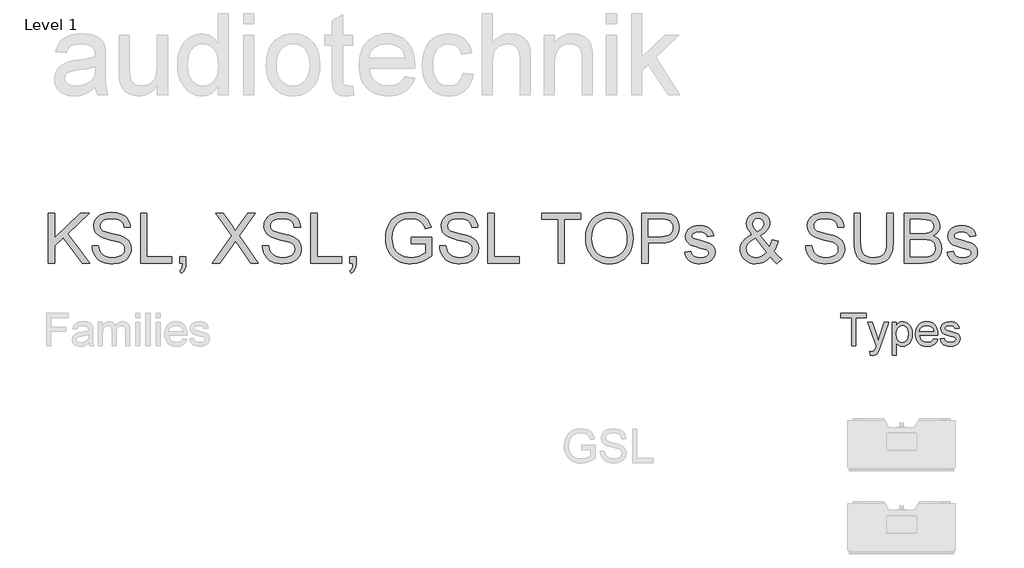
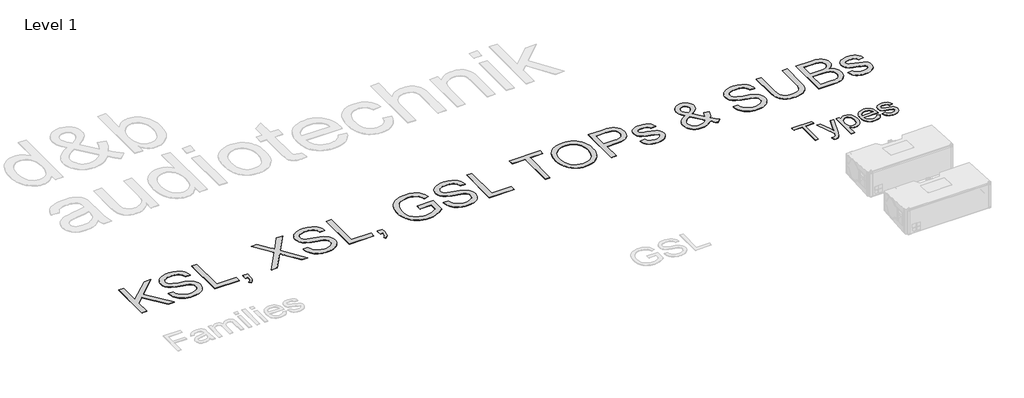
# One storey, part 47 of 52: 2 proxies.
"""IFC4 building model written with IfcOpenShell, lengths in millimetres."""

from ifc_helpers import new_model, si_unit, origin, origin_with_axes, place, context, project, spatial, polyline, outline, extrude, element, save

model = new_model("IFC4")

# Units and contexts
model_context = context("Model", 3, world=origin())
ifc_project = project(units=[si_unit("LENGTHUNIT", "METRE", prefix="MILLI")], contexts=[model_context])

# Site, building, storey
site = spatial("IfcSite", under=ifc_project)
building = spatial("IfcBuilding", under=site)
storey = spatial("IfcBuildingStorey", under=building, Name="Level 1", Elevation=0.0)

# Proxies
placement = place(None, origin())
element("IfcBuildingElementProxy", 1, Name="400mm Arial", ObjectType="400mm Arial", at=placement, inside=storey, context=model_context, shape_type="SweptSolid", body=[
    extrude(outline(polyline([(-11345.9583027, 17351.3054836), (-11345.9583027, 17694.0933624), (-11474.5037572, 17694.0933624), (-11474.5037572, 17743.0630593), (-11168.4431512, 17743.0630593), (-11168.4431512, 17694.0933624), (-11296.9886057, 17694.0933624), (-11296.9886057, 17351.3054836), (-11345.9583027, 17351.3054836)])), origin_with_axes(), (0.0, 0.0, 1.0), 5.0),
    extrude(outline(polyline([(-11119.4734542, 17241.1236654), (-11125.5946663, 17288.2761275), (-11100.7272421, 17283.9721502), (-11087.6479334, 17285.3231209), (-11077.4857648, 17289.3760328), (-11063.2348179, 17304.4399533), (-11049.8446663, 17340.4977184), (-11046.0189088, 17352.3575669), (-11150.0795148, 17639.0024533), (-11098.4317875, 17639.0024533), (-11043.2452345, 17479.2770745), (-11024.0208027, 17415.386923), (-11004.7963709, 17471.8168472), (-10948.0795148, 17639.0024533), (-10896.8143633, 17639.0024533), (-10996.9535679, 17344.4191199), (-11022.9687194, 17280.5289684), (-11036.2871379, 17260.1328983), (-11051.3749694, 17246.0015063), (-11068.9017213, 17237.7522165), (-11089.5369012, 17235.0024533), (-11119.4734542, 17241.1236654)])), origin_with_axes(), (0.0, 0.0, 1.0), 5.0),
    extrude(outline(polyline([(-10856.261333, 17241.1236654), (-10856.261333, 17639.0024533), (-10807.291636, 17639.0024533), (-10807.291636, 17590.9891957), (-10791.3190982, 17614.6730262), (-10773.4336815, 17631.590048), (-10752.5833027, 17641.740261), (-10727.7158785, 17645.1236654), (-10694.5991644, 17640.3892904), (-10665.6429618, 17626.1861654), (-10642.0667307, 17603.3750858), (-10625.0899315, 17572.8168472), (-10614.832119, 17536.7351711), (-10611.4128482, 17497.353779), (-10615.2744722, 17455.4736891), (-10626.8593444, 17418.0171313), (-10645.7968444, 17386.885029), (-10671.7163519, 17363.9783055), (-10701.9039703, 17349.88278), (-10733.6458027, 17345.1842715), (-10756.1579949, 17348.328566), (-10776.2551777, 17357.7614495), (-10793.4591313, 17372.000441), (-10807.291636, 17389.5630593), (-10807.291636, 17241.1236654), (-10856.261333, 17241.1236654)]), holes=[polyline([(-10807.291636, 17492.8585139), (-10801.9953529, 17448.9579457), (-10795.374999, 17431.9572355), (-10786.1065035, 17418.2562411), (-10762.6617828, 17400.1795366), (-10749.2447314, 17395.6603605), (-10734.697886, 17394.1539684), (-10719.9418195, 17395.7141602), (-10706.2796805, 17400.3947355), (-10682.2371853, 17419.1170366), (-10672.6757802, 17433.3141839), (-10665.8462052, 17450.9425574), (-10660.3825451, 17496.4929836), (-10665.7146947, 17540.1544419), (-10672.3798818, 17557.2866625), (-10681.7111436, 17571.2865442), (-10705.1199978, 17589.9371124), (-10718.3846166, 17594.5997544), (-10732.6893633, 17596.1539684), (-10746.9492769, 17594.5011216), (-10760.3663283, 17589.5425811), (-10784.6718444, 17569.7084192), (-10794.5680032, 17554.9882191), (-10801.6366881, 17537.2731682), (-10805.8778991, 17516.5632665), (-10807.291636, 17492.8585139)])]), origin_with_axes(), (0.0, 0.0, 1.0), 5.0),
    extrude(outline(polyline([(-10354.8958027, 17437.0024533), (-10306.8825451, 17430.8812411), (-10314.2441396, 17411.6508316), (-10324.1821427, 17394.7039211), (-10336.6965544, 17380.0405096), (-10351.7873747, 17367.6605972), (-10369.2991822, 17357.8272047), (-10389.0765555, 17350.8033529), (-10435.4279997, 17345.1842715), (-10465.8128837, 17347.6082475), (-10492.8860963, 17354.8801758), (-10516.6476375, 17367.0000563), (-10537.0975072, 17383.9678889), (-10553.5422871, 17405.3114317), (-10565.2885584, 17430.5584429), (-10572.3363212, 17459.7089223), (-10574.6855754, 17492.7628699), (-10572.3124102, 17526.937645), (-10565.1929144, 17557.0595082), (-10553.3270882, 17583.1284594), (-10536.7149315, 17605.1444987), (-10516.3188614, 17622.6353841), (-10493.1012951, 17635.1288737), (-10467.0622326, 17642.6249675), (-10438.2016739, 17645.1236654), (-10410.2706547, 17642.6309452), (-10385.0116881, 17635.1527847), (-10362.4247741, 17622.6891839), (-10342.5099125, 17605.2401427), (-10326.2534317, 17583.2719253), (-10314.6416597, 17557.2507961), (-10307.6745965, 17527.1767549), (-10305.3522421, 17493.0498018), (-10305.6391739, 17479.8509381), (-10525.7158785, 17479.8509381), (-10522.8794379, 17460.3096858), (-10517.2394343, 17443.1953983), (-10508.7958678, 17428.5080759), (-10497.5487383, 17416.2477184), (-10469.1305328, 17399.6774059), (-10434.4715603, 17394.1539684), (-10408.4085868, 17396.7124438), (-10386.4583027, 17404.3878699), (-10368.620708, 17417.6584665), (-10354.8958027, 17437.0024533)]), holes=[polyline([(-10525.7158785, 17528.8206351), (-10354.3219391, 17528.8206351), (-10360.9452819, 17554.6923207), (-10373.9289466, 17573.199423), (-10387.2832317, 17583.2420366), (-10402.4786625, 17590.4153321), (-10438.3929618, 17596.1539684), (-10471.4020764, 17591.5750148), (-10498.6964656, 17577.838154), (-10517.6698321, 17556.4258671), (-10525.7158785, 17528.8206351)])]), origin_with_axes(), (0.0, 0.0, 1.0), 5.0),
    extrude(outline(polyline([(-10274.7461815, 17437.0024533), (-10225.7764845, 17443.1236654), (-10218.0532364, 17422.1776427), (-10203.1088709, 17406.7789684), (-10180.847744, 17397.3102184), (-10151.1742118, 17394.1539684), (-10121.8593444, 17397.0471976), (-10101.2480754, 17405.7268851), (-10089.0534732, 17418.3040631), (-10084.9886057, 17432.8897639), (-10089.0773841, 17445.371298), (-10101.3437194, 17454.8878699), (-10151.7480754, 17468.8518851), (-10225.4895527, 17492.8106919), (-10244.1520764, 17504.8498728), (-10257.6737383, 17520.7865442), (-10265.8871616, 17539.6044893), (-10268.6249694, 17560.2874911), (-10266.4251588, 17579.2608576), (-10259.8257269, 17596.775654), (-10249.4244485, 17612.1384618), (-10235.8190982, 17624.6558624), (-10204.6869959, 17639.1459192), (-10162.5558406, 17645.1236654), (-10130.6824978, 17642.7206114), (-10102.9696663, 17635.5114495), (-10080.6846285, 17624.2015536), (-10065.0946663, 17609.496298), (-10054.7651209, 17590.3077326), (-10048.261333, 17565.5479078), (-10097.23103, 17559.4266957), (-10103.4120196, 17574.8373254), (-10115.6424883, 17586.4461086), (-10134.0419911, 17593.7270035), (-10158.730083, 17596.1539684), (-10186.8494012, 17593.8346029), (-10205.5956133, 17586.8765063), (-10216.1403576, 17576.8338927), (-10219.6552724, 17565.260976), (-10213.8209921, 17551.010029), (-10195.5529997, 17540.2022639), (-10153.3740224, 17529.7770745), (-10081.4976019, 17506.7268851), (-10062.51228, 17495.7039211), (-10048.1178671, 17480.6160896), (-10039.0436483, 17461.4155688), (-10036.0189088, 17438.0545366), (-10039.56969, 17413.9044419), (-10050.2220338, 17391.1890063), (-10067.5694533, 17371.6895982), (-10091.2054618, 17357.1875858), (-10119.7551777, 17348.1851), (-10151.8437194, 17345.1842715), (-10178.1996024, 17346.630886), (-10201.2199031, 17350.9707298), (-10220.9046214, 17358.2038027), (-10237.2537572, 17368.3301048), (-10250.6080423, 17381.3018141), (-10261.308208, 17397.0711086), (-10269.3542544, 17415.6379883), (-10274.7461815, 17437.0024533)])), origin_with_axes(), (0.0, 0.0, 1.0), 5.0),
])
element("IfcBuildingElementProxy", 2, Name="600mm Arial", ObjectType="600mm Arial", at=placement, inside=storey, context=model_context, shape_type="SweptSolid", body=[
    extrude(outline(polyline([(-21033.6449223, 18351.3054836), (-21033.6449223, 18954.0433445), (-20958.3026897, 18954.0433445), (-20958.3026897, 18659.0019843), (-20649.2818138, 18954.0433445), (-20543.9204104, 18954.0433445), (-20803.3507934, 18706.2380325), (-20534.5026313, 18351.3054836), (-20626.6202829, 18351.3054836), (-20856.7672591, 18655.3231644), (-20958.3026897, 18558.4966233), (-20958.3026897, 18351.3054836), (-21033.6449223, 18351.3054836)])), origin_with_axes(), (0.0, 0.0, 1.0), 5.0),
    extrude(outline(polyline([(-20506.2492941, 18558.4966233), (-20430.9070614, 18558.4966233), (-20422.2618346, 18516.6868345), (-20406.6268498, 18483.0808142), (-20382.2362735, 18456.4093696), (-20347.3242721, 18435.4033077), (-20304.6499607, 18421.7732797), (-20256.9724541, 18417.2299371), (-20214.9971185, 18420.6696338), (-20178.2457072, 18430.9887237), (-20148.4656597, 18447.3226843), (-20127.4044154, 18468.8069928), (-20114.8780335, 18493.4734806), (-20110.7025728, 18519.353979), (-20113.8295698, 18544.5722897), (-20123.2105607, 18566.369298), (-20142.266848, 18584.9657328), (-20174.4197344, 18600.5823235), (-20284.1221454, 18629.3506955), (-20356.1350459, 18648.3885888), (-20402.2122658, 18666.506777), (-20439.7178352, 18691.8538465), (-20466.2973094, 18722.5719931), (-20482.1346293, 18757.9990292), (-20487.4137359, 18797.4727673), (-20485.7812596, 18819.9089705), (-20480.8838305, 18841.6002126), (-20472.7214487, 18862.5464937), (-20461.2941142, 18882.7478138), (-20446.7305858, 18901.3810369), (-20429.159622, 18917.6230269), (-20408.5812229, 18931.4737841), (-20384.9953884, 18942.9333082), (-20331.9835929, 18958.3291697), (-20273.3064147, 18963.4611235), (-20209.7364059, 18958.0900464), (-20154.1126483, 18941.976815), (-20129.7772543, 18929.9746649), (-20108.4217045, 18915.4525232), (-20090.0459988, 18898.4103897), (-20074.6501373, 18878.8482647), (-20062.3536816, 18857.336365), (-20053.2761934, 18834.4449078), (-20047.4176726, 18810.1738932), (-20044.7781193, 18784.5233211), (-20120.1203519, 18784.5233211), (-20125.1603353, 18808.5644095), (-20133.9527149, 18829.4785009), (-20146.497491, 18847.2655954), (-20162.7946634, 18861.9256929), (-20183.1477347, 18873.385217), (-20207.8602078, 18881.5705914), (-20236.9320824, 18886.4818161), (-20270.3633588, 18888.1188909), (-20304.8614929, 18886.5002102), (-20334.3380377, 18881.6441678), (-20358.7929933, 18873.5507639), (-20378.2263597, 18862.2199985), (-20393.03361, 18848.5991676), (-20403.6102174, 18833.6355674), (-20409.9561818, 18817.329198), (-20412.0715033, 18799.6800593), (-20410.5723842, 18784.4957299), (-20406.0750268, 18770.7277463), (-20398.5794311, 18758.3761083), (-20388.0855972, 18747.440816), (-20371.5676956, 18737.0849378), (-20345.5584386, 18726.6186951), (-20265.065858, 18705.3551157), (-20181.9981035, 18685.1583942), (-20131.745423, 18667.5368466), (-20088.7952, 18640.2032144), (-20072.1899265, 18624.1359682), (-20058.8312115, 18606.4684354), (-20048.5627053, 18587.2925864), (-20041.2280581, 18566.7003917), (-20035.3603402, 18521.2669653), (-20037.0479989, 18497.699525), (-20042.1109748, 18474.8218635), (-20050.5492681, 18452.6339806), (-20062.3628787, 18431.1358765), (-20077.3448729, 18411.1598842), (-20095.2883172, 18393.5383366), (-20116.1932116, 18378.2712338), (-20140.0595561, 18365.3585758), (-20166.1929733, 18355.0900696), (-20193.8990861, 18347.7554223), (-20254.0293982, 18341.8877045), (-20292.5696357, 18343.4695971), (-20327.8449205, 18348.2152748), (-20359.8552526, 18356.1247377), (-20388.600632, 18367.1979858), (-20414.2558026, 18381.4534131), (-20436.9955085, 18398.9094137), (-20456.8197495, 18419.5659878), (-20473.7285257, 18443.4231352), (-20487.3493566, 18469.7083037), (-20497.3097616, 18497.6489413), (-20503.6097407, 18527.2450478), (-20506.2492941, 18558.4966233)])), origin_with_axes(), (0.0, 0.0, 1.0), 5.0),
    extrude(outline(polyline([(-19922.3469913, 18351.3054836), (-19922.3469913, 18954.0433445), (-19847.0047587, 18954.0433445), (-19847.0047587, 18426.6477162), (-19545.6358283, 18426.6477162), (-19545.6358283, 18351.3054836), (-19922.3469913, 18351.3054836)])), origin_with_axes(), (0.0, 0.0, 1.0), 5.0),
    extrude(outline(polyline([(-19451.4580375, 18351.3054836), (-19451.4580375, 18426.6477162), (-19376.1158049, 18426.6477162), (-19376.1158049, 18351.3054836), (-19379.5003192, 18308.2081078), (-19389.6538623, 18274.2709938), (-19407.1650453, 18248.2433426), (-19432.6224793, 18228.8743556), (-19451.4580375, 18257.1276928), (-19435.1240769, 18270.7761148), (-19423.7933115, 18289.6484612), (-19416.9139181, 18315.804871), (-19413.934074, 18351.3054836), (-19451.4580375, 18351.3054836)])), origin_with_axes(), (0.0, 0.0, 1.0), 5.0),
    extrude(outline(polyline([(-19055.9113163, 18351.3054836), (-18823.5570481, 18679.7505289), (-19018.2402, 18954.0433445), (-18927.888382, 18954.0433445), (-18818.2595474, 18799.6800593), (-18792.1031375, 18760.5742032), (-18781.3241951, 18739.4945649), (-18738.0612724, 18800.7101289), (-18629.6096603, 18954.0433445), (-18537.9334671, 18954.0433445), (-18732.6166189, 18678.8676121), (-18500.2623508, 18351.3054836), (-18590.6141688, 18351.3054836), (-18745.4189123, 18569.6802359), (-18777.6453751, 18615.0032977), (-18813.1091995, 18565.265652), (-18964.2351231, 18351.3054836), (-19055.9113163, 18351.3054836)])), origin_with_axes(), (0.0, 0.0, 1.0), 5.0),
    extrude(outline(polyline([(-18453.1734554, 18558.4966233), (-18377.8312228, 18558.4966233), (-18369.1859959, 18516.6868345), (-18353.5510111, 18483.0808142), (-18329.1604348, 18456.4093696), (-18294.2484335, 18435.4033077), (-18251.574122, 18421.7732797), (-18203.8966154, 18417.2299371), (-18161.9212798, 18420.6696338), (-18125.1698685, 18430.9887237), (-18095.389821, 18447.3226843), (-18074.3285767, 18468.8069928), (-18061.8021948, 18493.4734806), (-18057.6267342, 18519.353979), (-18060.7537311, 18544.5722897), (-18070.134722, 18566.369298), (-18089.1910093, 18584.9657328), (-18121.3438957, 18600.5823235), (-18231.0463067, 18629.3506955), (-18303.0592072, 18648.3885888), (-18349.1364271, 18666.506777), (-18386.6419965, 18691.8538465), (-18413.2214707, 18722.5719931), (-18429.0587906, 18757.9990292), (-18434.3378972, 18797.4727673), (-18432.7054209, 18819.9089705), (-18427.8079918, 18841.6002126), (-18419.64561, 18862.5464937), (-18408.2182756, 18882.7478138), (-18393.6547471, 18901.3810369), (-18376.0837833, 18917.6230269), (-18355.5053842, 18931.4737841), (-18331.9195498, 18942.9333082), (-18278.9077543, 18958.3291697), (-18220.230576, 18963.4611235), (-18156.6605673, 18958.0900464), (-18101.0368096, 18941.976815), (-18076.7014156, 18929.9746649), (-18055.3458658, 18915.4525232), (-18036.9701601, 18898.4103897), (-18021.5742986, 18878.8482647), (-18009.2778429, 18857.336365), (-18000.2003547, 18834.4449078), (-17994.3418339, 18810.1738932), (-17991.7022806, 18784.5233211), (-18067.0445132, 18784.5233211), (-18072.0844966, 18808.5644095), (-18080.8768763, 18829.4785009), (-18093.4216523, 18847.2655954), (-18109.7188247, 18861.9256929), (-18130.0718961, 18873.385217), (-18154.7843691, 18881.5705914), (-18183.8562438, 18886.4818161), (-18217.2875201, 18888.1188909), (-18251.7856542, 18886.5002102), (-18281.262199, 18881.6441678), (-18305.7171547, 18873.5507639), (-18325.1505211, 18862.2199985), (-18339.9577714, 18848.5991676), (-18350.5343787, 18833.6355674), (-18356.8803431, 18817.329198), (-18358.9956646, 18799.6800593), (-18357.4965455, 18784.4957299), (-18352.9991881, 18770.7277463), (-18345.5035924, 18758.3761083), (-18335.0097585, 18747.440816), (-18318.4918569, 18737.0849378), (-18292.4825999, 18726.6186951), (-18211.9900193, 18705.3551157), (-18128.9222648, 18685.1583942), (-18078.6695843, 18667.5368466), (-18035.7193614, 18640.2032144), (-18019.1140878, 18624.1359682), (-18005.7553728, 18606.4684354), (-17995.4868667, 18587.2925864), (-17988.1522194, 18566.7003917), (-17982.2845016, 18521.2669653), (-17983.9721602, 18497.699525), (-17989.0351362, 18474.8218635), (-17997.4734294, 18452.6339806), (-18009.28704, 18431.1358765), (-18024.2690343, 18411.1598842), (-18042.2124786, 18393.5383366), (-18063.1173729, 18378.2712338), (-18086.9837174, 18365.3585758), (-18113.1171346, 18355.0900696), (-18140.8232474, 18347.7554223), (-18200.9535595, 18341.8877045), (-18239.493797, 18343.4695971), (-18274.7690818, 18348.2152748), (-18306.7794139, 18356.1247377), (-18335.5247933, 18367.1979858), (-18361.179964, 18381.4534131), (-18383.9196698, 18398.9094137), (-18403.7439108, 18419.5659878), (-18420.652687, 18443.4231352), (-18434.2735179, 18469.7083037), (-18444.2339229, 18497.6489413), (-18450.5339021, 18527.2450478), (-18453.1734554, 18558.4966233)])), origin_with_axes(), (0.0, 0.0, 1.0), 5.0),
    extrude(outline(polyline([(-17869.2711526, 18351.3054836), (-17869.2711526, 18954.0433445), (-17793.92892, 18954.0433445), (-17793.92892, 18426.6477162), (-17492.5599896, 18426.6477162), (-17492.5599896, 18351.3054836), (-17869.2711526, 18351.3054836)])), origin_with_axes(), (0.0, 0.0, 1.0), 5.0),
    extrude(outline(polyline([(-17398.3821988, 18351.3054836), (-17398.3821988, 18426.6477162), (-17323.0399662, 18426.6477162), (-17323.0399662, 18351.3054836), (-17326.4244806, 18308.2081078), (-17336.5780236, 18274.2709938), (-17354.0892066, 18248.2433426), (-17379.5466407, 18228.8743556), (-17398.3821988, 18257.1276928), (-17382.0482382, 18270.7761148), (-17370.7174728, 18289.6484612), (-17363.8380795, 18315.804871), (-17360.8582353, 18351.3054836), (-17398.3821988, 18351.3054836)])), origin_with_axes(), (0.0, 0.0, 1.0), 5.0),
    extrude(outline(polyline([(-16654.3776518, 18586.7499605), (-16654.3776518, 18662.0921931), (-16409.5153958, 18662.0921931), (-16409.5153958, 18436.8012593), (-16469.0203085, 18395.4145348), (-16530.4014194, 18365.7264578), (-16593.5115757, 18347.8473928), (-16658.2036245, 18341.8877045), (-16701.4803427, 18344.2559448), (-16742.7245129, 18351.3606659), (-16781.9361351, 18363.2018676), (-16819.1152092, 18379.77955), (-16853.0615203, 18400.8453927), (-16882.5748534, 18426.1510755), (-16907.6552084, 18455.6965982), (-16928.3025854, 18489.481961), (-16944.4296123, 18526.4265103), (-16955.9489173, 18565.449593), (-16962.8605003, 18606.5512089), (-16965.1643613, 18649.7313581), (-16962.8696973, 18692.9161058), (-16955.9857055, 18734.6201284), (-16944.5123858, 18774.8434261), (-16928.4497382, 18813.5859987), (-16908.0828712, 18849.1463921), (-16883.6968935, 18879.8231519), (-16855.2918049, 18905.6162783), (-16822.8676056, 18926.5257712), (-16787.1278697, 18942.6849879), (-16748.7761717, 18954.2272855), (-16707.8125116, 18961.152664), (-16664.2368892, 18963.4611235), (-16602.1751966, 18958.1084405), (-16546.367498, 18942.0503914), (-16521.4480913, 18930.2965617), (-16499.3705731, 18916.4458046), (-16480.1349433, 18900.4981201), (-16463.7412019, 18882.4535082), (-16437.3824569, 18838.4364275), (-16418.1974109, 18782.7574875), (-16487.6535315, 18763.1861654), (-16503.1597576, 18802.8990268), (-16522.0137099, 18832.8630153), (-16546.9561092, 18855.4509698), (-16580.7276763, 18873.0357291), (-16620.9923607, 18884.3481005), (-16665.4141116, 18888.1188909), (-16717.4142316, 18884.0537949), (-16761.8727708, 18871.8585067), (-16798.6241821, 18853.0597368), (-16827.5029187, 18829.1841953), (-16849.6678089, 18801.464287), (-16866.277681, 18771.1324165), (-16883.9360168, 18714.25786), (-16889.8221287, 18652.8215668), (-16888.0516966, 18615.2010343), (-16882.7404003, 18580.7718781), (-16873.8882398, 18549.5340981), (-16861.495215, 18521.4876945), (-16845.7222745, 18496.7384333), (-16826.7303665, 18475.3920805), (-16804.519491, 18457.4486362), (-16779.0896481, 18442.9081004), (-16751.6318557, 18431.6739039), (-16723.3371318, 18423.6494779), (-16694.2054763, 18418.8348223), (-16664.2368892, 18417.2299371), (-16612.0528282, 18422.0675853), (-16561.1563542, 18436.5805301), (-16516.9553325, 18456.5749165), (-16484.8576284, 18477.8568899), (-16484.8576284, 18586.7499605), (-16654.3776518, 18586.7499605)])), origin_with_axes(), (0.0, 0.0, 1.0), 5.0),
    extrude(outline(polyline([(-16315.337605, 18558.4966233), (-16239.9953724, 18558.4966233), (-16231.3501455, 18516.6868345), (-16215.7151607, 18483.0808142), (-16191.3245844, 18456.4093696), (-16156.4125831, 18435.4033077), (-16113.7382716, 18421.7732797), (-16066.0607651, 18417.2299371), (-16024.0854294, 18420.6696338), (-15987.3340181, 18430.9887237), (-15957.5539706, 18447.3226843), (-15936.4927264, 18468.8069928), (-15923.9663444, 18493.4734806), (-15919.7908838, 18519.353979), (-15922.9178808, 18544.5722897), (-15932.2988716, 18566.369298), (-15951.355159, 18584.9657328), (-15983.5080454, 18600.5823235), (-16093.2104563, 18629.3506955), (-16165.2233569, 18648.3885888), (-16211.3005768, 18666.506777), (-16248.8061462, 18691.8538465), (-16275.3856203, 18722.5719931), (-16291.2229402, 18757.9990292), (-16296.5020469, 18797.4727673), (-16294.8695705, 18819.9089705), (-16289.9721414, 18841.6002126), (-16281.8097597, 18862.5464937), (-16270.3824252, 18882.7478138), (-16255.8188967, 18901.3810369), (-16238.2479329, 18917.6230269), (-16217.6695338, 18931.4737841), (-16194.0836994, 18942.9333082), (-16141.0719039, 18958.3291697), (-16082.3947257, 18963.4611235), (-16018.8247169, 18958.0900464), (-15963.2009592, 18941.976815), (-15938.8655652, 18929.9746649), (-15917.5100154, 18915.4525232), (-15899.1343098, 18898.4103897), (-15883.7384483, 18878.8482647), (-15871.4419926, 18857.336365), (-15862.3645043, 18834.4449078), (-15856.5059836, 18810.1738932), (-15853.8664303, 18784.5233211), (-15929.2086629, 18784.5233211), (-15934.2486462, 18808.5644095), (-15943.0410259, 18829.4785009), (-15955.5858019, 18847.2655954), (-15971.8829743, 18861.9256929), (-15992.2360457, 18873.385217), (-16016.9485187, 18881.5705914), (-16046.0203934, 18886.4818161), (-16079.4516697, 18888.1188909), (-16113.9498038, 18886.5002102), (-16143.4263487, 18881.6441678), (-16167.8813043, 18873.5507639), (-16187.3146707, 18862.2199985), (-16202.121921, 18848.5991676), (-16212.6985284, 18833.6355674), (-16219.0444928, 18817.329198), (-16221.1598142, 18799.6800593), (-16219.6606951, 18784.4957299), (-16215.1633377, 18770.7277463), (-16207.6677421, 18758.3761083), (-16197.1739082, 18747.440816), (-16180.6560066, 18737.0849378), (-16154.6467495, 18726.6186951), (-16074.154169, 18705.3551157), (-15991.0864145, 18685.1583942), (-15940.8337339, 18667.5368466), (-15897.883511, 18640.2032144), (-15881.2782374, 18624.1359682), (-15867.9195225, 18606.4684354), (-15857.6510163, 18587.2925864), (-15850.316369, 18566.7003917), (-15844.4486512, 18521.2669653), (-15846.1363098, 18497.699525), (-15851.1992858, 18474.8218635), (-15859.6375791, 18452.6339806), (-15871.4511896, 18431.1358765), (-15886.4331839, 18411.1598842), (-15904.3766282, 18393.5383366), (-15925.2815226, 18378.2712338), (-15949.147867, 18365.3585758), (-15975.2812842, 18355.0900696), (-16002.987397, 18347.7554223), (-16063.1177091, 18341.8877045), (-16101.6579466, 18343.4695971), (-16136.9332314, 18348.2152748), (-16168.9435636, 18356.1247377), (-16197.6889429, 18367.1979858), (-16223.3441136, 18381.4534131), (-16246.0838194, 18398.9094137), (-16265.9080604, 18419.5659878), (-16282.8168366, 18443.4231352), (-16296.4376675, 18469.7083037), (-16306.3980725, 18497.6489413), (-16312.6980517, 18527.2450478), (-16315.337605, 18558.4966233)])), origin_with_axes(), (0.0, 0.0, 1.0), 5.0),
    extrude(outline(polyline([(-15731.4353023, 18351.3054836), (-15731.4353023, 18954.0433445), (-15656.0930696, 18954.0433445), (-15656.0930696, 18426.6477162), (-15354.7241392, 18426.6477162), (-15354.7241392, 18351.3054836), (-15731.4353023, 18351.3054836)])), origin_with_axes(), (0.0, 0.0, 1.0), 5.0),
    extrude(outline(polyline([(-14883.8351854, 18351.3054836), (-14883.8351854, 18878.7011119), (-15081.608546, 18878.7011119), (-15081.608546, 18954.0433445), (-14610.7195922, 18954.0433445), (-14610.7195922, 18878.7011119), (-14808.4929528, 18878.7011119), (-14808.4929528, 18351.3054836), (-14883.8351854, 18351.3054836)])), origin_with_axes(), (0.0, 0.0, 1.0), 5.0),
    extrude(outline(polyline([(-14554.2129177, 18644.7281629), (-14549.1913285, 18715.4258853), (-14534.1265608, 18778.0118098), (-14509.0186146, 18832.4859362), (-14492.6984496, 18856.6810752), (-14473.8674899, 18878.8482647), (-14430.7793113, 18915.8663904), (-14381.860203, 18942.3079088), (-14327.110165, 18958.1728199), (-14266.5291975, 18963.4611235), (-14225.9794045, 18960.9779201), (-14187.4713567, 18953.5283097), (-14151.0050539, 18941.1122923), (-14116.5804962, 18923.7298681), (-14085.1633738, 18901.9052687), (-14057.719377, 18876.1627261), (-14034.2485057, 18846.5022402), (-14014.75076, 18812.9238111), (-13999.4284749, 18776.1907939), (-13988.4839855, 18737.0665437), (-13981.9172919, 18695.5510606), (-13979.728394, 18651.6443444), (-13982.032255, 18607.1582142), (-13988.943838, 18565.081711), (-14000.463143, 18525.4148348), (-14016.5901699, 18488.1575858), (-14036.9432413, 18454.2940481), (-14061.1406796, 18424.8083062), (-14089.1824846, 18399.70036), (-14121.0686566, 18378.9702096), (-14155.543798, 18362.7466136), (-14191.3525118, 18351.1583308), (-14228.4947977, 18344.2053611), (-14266.9706559, 18341.8877045), (-14308.2286216, 18344.4490829), (-14347.2425072, 18352.1332181), (-14384.0123126, 18364.94011), (-14418.5380379, 18382.8697588), (-14449.9183721, 18405.227787), (-14477.2520043, 18431.3198175), (-14500.5389346, 18461.1458503), (-14519.7791629, 18494.7058853), (-14534.8439306, 18530.6525547), (-14545.604479, 18567.6384908), (-14552.060808, 18605.6636936), (-14554.2129177, 18644.7281629)]), holes=[polyline([(-14478.8706851, 18643.9923989), (-14475.1044932, 18594.043221), (-14463.8059174, 18549.7042436), (-14444.9749578, 18510.9754665), (-14418.6116143, 18477.8568899), (-14386.564494, 18451.3325981), (-14350.6822039, 18432.3866753), (-14310.964744, 18421.0191217), (-14267.4121143, 18417.2299371), (-14223.1145235, 18421.0559099), (-14182.9280141, 18432.5338281), (-14146.8525859, 18451.6636919), (-14114.8882391, 18478.4455011), (-14088.7180336, 18512.2630535), (-14070.0250297, 18552.5001467), (-14058.8092274, 18599.1567808), (-14055.0706266, 18652.2329556), (-14056.6709133, 18686.7126956), (-14061.4717734, 18718.9299614), (-14069.4732068, 18748.8847528), (-14080.6752135, 18776.57707), (-14094.9536334, 18801.6436294), (-14112.1843064, 18823.7211477), (-14132.3672324, 18842.8096247), (-14155.5024113, 18858.9090605), (-14180.8724734, 18871.6883613), (-14207.7600487, 18880.8164333), (-14236.1651373, 18886.2932765), (-14266.0877391, 18888.1188909), (-14308.1274541, 18884.6010194), (-14347.1321426, 18874.0474046), (-14383.1018047, 18856.4580467), (-14416.0364403, 18831.8329457), (-14443.5264224, 18798.985682), (-14463.1621239, 18756.7298364), (-14474.9435448, 18705.0654087), (-14478.8706851, 18643.9923989)])]), origin_with_axes(), (0.0, 0.0, 1.0), 5.0),
    extrude(outline(polyline([(-13876.1328242, 18351.3054836), (-13876.1328242, 18954.0433445), (-13652.7548767, 18954.0433445), (-13600.7363626, 18952.6086047), (-13562.6973643, 18948.3043853), (-13522.5430445, 18937.5806252), (-13489.4888473, 18920.1246245), (-13462.8725849, 18895.145437), (-13442.0320699, 18861.8521165), (-13428.5675889, 18822.5807135), (-13424.0794285, 18779.6672788), (-13427.1098564, 18742.6675471), (-13436.2011403, 18708.6292655), (-13451.3532799, 18677.5524339), (-13472.5662755, 18649.4370525), (-13501.6887339, 18626.1317281), (-13540.5692623, 18609.4850678), (-13589.2078606, 18599.4970716), (-13647.6045288, 18596.1677396), (-13800.7905916, 18596.1677396), (-13800.7905916, 18351.3054836), (-13876.1328242, 18351.3054836)]), holes=[polyline([(-13800.7905916, 18671.5099722), (-13643.1899448, 18671.5099722), (-13606.9535683, 18673.2390176), (-13576.3825745, 18678.4261537), (-13551.4769634, 18687.0713806), (-13532.2367351, 18699.1746982), (-13517.8801402, 18714.4142099), (-13507.6254296, 18732.4680188), (-13501.4726032, 18753.336125), (-13499.4216611, 18777.0185284), (-13504.2593094, 18810.8636719), (-13518.7722541, 18839.4113148), (-13541.1578735, 18860.8956233), (-13569.6135458, 18873.5507639), (-13598.6762234, 18877.4135249), (-13644.9557784, 18878.7011119), (-13800.7905916, 18878.7011119), (-13800.7905916, 18671.5099722)])]), origin_with_axes(), (0.0, 0.0, 1.0), 5.0),
    extrude(outline(polyline([(-13358.154975, 18483.1543906), (-13282.8127424, 18492.5721697), (-13278.2602027, 18475.3920805), (-13270.9301539, 18460.3457069), (-13260.8225961, 18447.4330489), (-13247.9375292, 18436.6541065), (-13232.2381651, 18428.1560324), (-13213.6877155, 18422.0859794), (-13168.0335599, 18417.2299371), (-13122.9312273, 18421.6813092), (-13105.4016502, 18427.2455244), (-13091.2197993, 18435.0354257), (-13072.4578175, 18454.3860186), (-13067.7673221, 18465.2201434), (-13066.2038236, 18476.8268203), (-13067.7765191, 18486.9987575), (-13072.4946057, 18496.0302605), (-13091.3669521, 18510.6719639), (-13119.5835011, 18520.2368958), (-13168.9164767, 18532.1562724), (-13237.6736216, 18552.0402942), (-13282.371284, 18569.0180483), (-13311.0844737, 18587.5409068), (-13331.8882005, 18612.0602418), (-13344.5249471, 18641.0125548), (-13348.7371959, 18672.8343474), (-13345.3526815, 18702.0257837), (-13335.1991385, 18728.9731398), (-13319.1962717, 18752.609558), (-13298.2637862, 18771.8681805), (-13277.4600593, 18783.9898922), (-13250.3655504, 18794.1618294), (-13219.0403985, 18801.0596168), (-13185.5447428, 18803.3588792), (-13136.5060729, 18799.6616652), (-13093.8685496, 18788.570023), (-13059.5819477, 18771.1692047), (-13035.5960416, 18748.544462), (-13019.7035394, 18719.0219319), (-13009.6971491, 18680.9277513), (-13085.0393818, 18671.5099722), (-13094.5491313, 18695.2199668), (-13113.3662954, 18713.0806376), (-13141.6748149, 18724.2826444), (-13179.6586309, 18728.0166466), (-13222.9215535, 18724.4481913), (-13251.763502, 18713.7428252), (-13267.987098, 18698.2917814), (-13273.3949633, 18680.4862929), (-13271.1508831, 18668.89801), (-13264.4186426, 18658.5605259), (-13252.9039362, 18649.3266879), (-13236.3124582, 18641.9322598), (-13171.4180742, 18625.8926048), (-13060.8327465, 18590.4287804), (-13031.6229161, 18573.4694205), (-13009.4764199, 18550.2560666), (-12995.5152982, 18520.7151424), (-12990.861591, 18484.7730714), (-12996.3246386, 18447.6169899), (-13012.7137815, 18412.6682004), (-13039.4036203, 18382.6674237), (-13075.7687555, 18360.3553807), (-13119.6938657, 18346.5046235), (-13169.0636295, 18341.8877045), (-13209.6134224, 18344.1133906), (-13245.0312615, 18350.7904488), (-13275.3171467, 18361.9188791), (-13300.4710781, 18377.4986816), (-13321.0172876, 18397.4562799), (-13337.4800068, 18421.7180974), (-13349.859236, 18450.2841344), (-13358.154975, 18483.1543906)])), origin_with_axes(), (0.0, 0.0, 1.0), 5.0),
    extrude(outline(polyline([(-12324.9951797, 18425.7647994), (-12363.2916954, 18389.0685704), (-12404.8991491, 18362.8569782), (-12449.8911171, 18347.1300229), (-12498.3411758, 18341.8877045), (-12542.3030743, 18345.7688595), (-12581.4825068, 18357.4123247), (-12615.8794733, 18376.8180999), (-12645.4939739, 18403.9861853), (-12664.7433993, 18430.0414276), (-12678.4929889, 18457.586592), (-12686.7427426, 18486.6216784), (-12689.4926605, 18517.146687), (-12687.28077, 18544.2136048), (-12680.6450986, 18569.9377533), (-12669.5856461, 18594.3191325), (-12654.1024126, 18617.3577425), (-12634.2229893, 18639.0443861), (-12609.9749673, 18659.3698663), (-12581.3583466, 18678.3341832), (-12548.3731272, 18695.9373367), (-12581.2433835, 18738.4644953), (-12600.9802525, 18772.1624861), (-12610.8578841, 18800.9308581), (-12614.1504279, 18828.6691605), (-12611.5568599, 18855.0003143), (-12603.7761557, 18879.5472404), (-12590.8083153, 18902.3099389), (-12572.6533389, 18923.2884097), (-12550.5712221, 18940.863972), (-12525.8219609, 18953.4179451), (-12498.4055552, 18960.9503289), (-12468.322005, 18963.4611235), (-12439.5996183, 18961.0606935), (-12413.6179524, 18953.8594035), (-12390.3770073, 18941.8572534), (-12369.8767831, 18925.0542433), (-12353.1381524, 18904.8851129), (-12341.1819875, 18882.784602), (-12334.0082886, 18858.7527107), (-12331.6170556, 18832.7894389), (-12333.3874877, 18811.4062979), (-12338.698784, 18790.8141032), (-12347.5509446, 18771.0128548), (-12359.9439693, 18752.0025527), (-12395.3526113, 18716.3547874), (-12444.9247102, 18683.8708072), (-12335.8844868, 18548.0487746), (-12317.306446, 18586.8603251), (-12303.3637184, 18631.4844111), (-12228.0214858, 18615.1504505), (-12251.1980515, 18545.363236), (-12265.3799024, 18516.2913614), (-12281.2907987, 18491.1006417), (-12238.4693345, 18441.1422668), (-12190.3503695, 18399.8659069), (-12246.8570439, 18341.8877045), (-12285.3007124, 18377.0572232), (-12324.9951797, 18425.7647994)]), holes=[polyline([(-12375.4685895, 18480.0641819), (-12509.9662469, 18647.9655245), (-12561.3409675, 18615.1872387), (-12592.7396958, 18584.8369741), (-12608.7977449, 18555.8478729), (-12614.1504279, 18527.1530773), (-12612.320215, 18509.5499238), (-12606.8295762, 18491.6156765), (-12584.8670211, 18454.7539006), (-12568.6986074, 18438.3371666), (-12549.4767732, 18426.610928), (-12527.2015184, 18419.5751848), (-12501.872843, 18417.2299371), (-12467.7885762, 18421.6077329), (-12432.6374515, 18434.7411201), (-12400.5029592, 18454.827477), (-12375.4685895, 18480.0641819)]), polyline([(-12483.0372849, 18731.401161), (-12443.6371232, 18756.3987426), (-12421.0859569, 18778.1221744), (-12410.4909554, 18799.256995), (-12406.9592882, 18822.488743), (-12411.6129955, 18848.8106997), (-12425.5741172, 18869.7983676), (-12446.5249968, 18883.5387601), (-12472.1479778, 18888.1188909), (-12498.3227818, 18883.5755483), (-12519.751908, 18869.9455204), (-12534.0441235, 18849.7671929), (-12538.8081953, 18825.5789518), (-12532.3334722, 18797.9878021), (-12512.7621501, 18767.3064437), (-12483.0372849, 18731.401161)])]), origin_with_axes(), (0.0, 0.0, 1.0), 5.0),
    extrude(outline(polyline([(-11898.3992181, 18558.4966233), (-11823.0569855, 18558.4966233), (-11814.4117586, 18516.6868345), (-11798.7767738, 18483.0808142), (-11774.3861975, 18456.4093696), (-11739.4741962, 18435.4033077), (-11696.7998848, 18421.7732797), (-11649.1223782, 18417.2299371), (-11607.1470425, 18420.6696338), (-11570.3956312, 18430.9887237), (-11540.6155837, 18447.3226843), (-11519.5543395, 18468.8069928), (-11507.0279575, 18493.4734806), (-11502.8524969, 18519.353979), (-11505.9794939, 18544.5722897), (-11515.3604847, 18566.369298), (-11534.4167721, 18584.9657328), (-11566.5696585, 18600.5823235), (-11676.2720694, 18629.3506955), (-11748.28497, 18648.3885888), (-11794.3621899, 18666.506777), (-11831.8677593, 18691.8538465), (-11858.4472334, 18722.5719931), (-11874.2845533, 18757.9990292), (-11879.56366, 18797.4727673), (-11877.9311836, 18819.9089705), (-11873.0337545, 18841.6002126), (-11864.8713728, 18862.5464937), (-11853.4440383, 18882.7478138), (-11838.8805098, 18901.3810369), (-11821.309546, 18917.6230269), (-11800.7311469, 18931.4737841), (-11777.1453125, 18942.9333082), (-11724.133517, 18958.3291697), (-11665.4563388, 18963.4611235), (-11601.88633, 18958.0900464), (-11546.2625723, 18941.976815), (-11521.9271784, 18929.9746649), (-11500.5716285, 18915.4525232), (-11482.1959229, 18898.4103897), (-11466.8000614, 18878.8482647), (-11454.5036057, 18857.336365), (-11445.4261175, 18834.4449078), (-11439.5675967, 18810.1738932), (-11436.9280434, 18784.5233211), (-11512.270276, 18784.5233211), (-11517.3102593, 18808.5644095), (-11526.102639, 18829.4785009), (-11538.647415, 18847.2655954), (-11554.9445874, 18861.9256929), (-11575.2976588, 18873.385217), (-11600.0101318, 18881.5705914), (-11629.0820065, 18886.4818161), (-11662.5132828, 18888.1188909), (-11697.0114169, 18886.5002102), (-11726.4879618, 18881.6441678), (-11750.9429174, 18873.5507639), (-11770.3762838, 18862.2199985), (-11785.1835341, 18848.5991676), (-11795.7601415, 18833.6355674), (-11802.1061059, 18817.329198), (-11804.2214274, 18799.6800593), (-11802.7223082, 18784.4957299), (-11798.2249508, 18770.7277463), (-11790.7293552, 18758.3761083), (-11780.2355213, 18747.440816), (-11763.7176197, 18737.0849378), (-11737.7083626, 18726.6186951), (-11657.2157821, 18705.3551157), (-11574.1480276, 18685.1583942), (-11523.895347, 18667.5368466), (-11480.9451241, 18640.2032144), (-11464.3398505, 18624.1359682), (-11450.9811356, 18606.4684354), (-11440.7126294, 18587.2925864), (-11433.3779821, 18566.7003917), (-11427.5102643, 18521.2669653), (-11429.1979229, 18497.699525), (-11434.2608989, 18474.8218635), (-11442.6991922, 18452.6339806), (-11454.5128027, 18431.1358765), (-11469.494797, 18411.1598842), (-11487.4382413, 18393.5383366), (-11508.3431357, 18378.2712338), (-11532.2094801, 18365.3585758), (-11558.3428973, 18355.0900696), (-11586.0490101, 18347.7554223), (-11646.1793222, 18341.8877045), (-11684.7195597, 18343.4695971), (-11719.9948446, 18348.2152748), (-11752.0051767, 18356.1247377), (-11780.7505561, 18367.1979858), (-11806.4057267, 18381.4534131), (-11829.1454325, 18398.9094137), (-11848.9696735, 18419.5659878), (-11865.8784497, 18443.4231352), (-11879.4992806, 18469.7083037), (-11889.4596856, 18497.6489413), (-11895.7596648, 18527.2450478), (-11898.3992181, 18558.4966233)])), origin_with_axes(), (0.0, 0.0, 1.0), 5.0),
    extrude(outline(polyline([(-10918.9501942, 18954.0433445), (-10843.6079615, 18954.0433445), (-10843.6079615, 18606.3212826), (-10848.7215213, 18524.890603), (-10855.1134709, 18491.1972108), (-10864.0622005, 18462.1851169), (-10876.3402621, 18436.755274), (-10892.7202079, 18413.8086346), (-10913.202038, 18393.3451986), (-10937.7857523, 18375.3649661), (-10966.498942, 18360.7186641), (-10999.3691983, 18350.2570199), (-11036.3965211, 18343.9800333), (-11077.5809105, 18341.8877045), (-11117.7490258, 18343.7087204), (-11154.0819714, 18349.171768), (-11186.5797471, 18358.2768474), (-11215.2423531, 18371.0239585), (-11240.0743877, 18387.2245619), (-11261.0804497, 18406.6901179), (-11278.2605388, 18429.4206267), (-11291.6146553, 18455.4160882), (-11301.6256441, 18485.5686162), (-11308.7763503, 18520.7703247), (-11313.0667741, 18561.0212134), (-11314.4969154, 18606.3212826), (-11314.4969154, 18954.0433445), (-11239.1546828, 18954.0433445), (-11239.1546828, 18608.970033), (-11235.4390746, 18541.2613518), (-11224.2922502, 18494.1172741), (-11215.5274616, 18476.7394484), (-11204.0955286, 18461.467747), (-11189.9964512, 18448.3021701), (-11173.2302292, 18437.2427176), (-11132.983939, 18422.2331322), (-11084.6442448, 18417.2299371), (-11043.1195646, 18419.7039435), (-11008.0144252, 18427.1259628), (-10979.3288266, 18439.4959949), (-10957.0627689, 18456.8140398), (-10940.3885174, 18481.1678279), (-10928.4783378, 18514.6450894), (-10921.3322301, 18557.2458245), (-10918.9501942, 18608.970033), (-10918.9501942, 18954.0433445)])), origin_with_axes(), (0.0, 0.0, 1.0), 5.0),
    extrude(outline(polyline([(-10711.7590545, 18351.3054836), (-10711.7590545, 18954.0433445), (-10481.7592311, 18954.0433445), (-10418.501922, 18949.6103664), (-10369.1137642, 18936.3114323), (-10349.0366043, 18926.2544583), (-10331.2587069, 18913.8154483), (-10315.7800719, 18898.9944024), (-10302.6006994, 18881.7913206), (-10284.5560876, 18844.1202043), (-10278.541217, 18804.6832544), (-10283.5995944, 18768.3916956), (-10298.7747267, 18734.2706406), (-10324.1769785, 18704.4170166), (-10359.9167143, 18680.9277513), (-10337.1770085, 18671.2340607), (-10317.2240087, 18658.6341023), (-10300.0577151, 18643.1278762), (-10285.6781277, 18624.7153824), (-10274.3151725, 18603.9576408), (-10266.198776, 18581.4156716), (-10261.3289381, 18557.0894746), (-10259.7056588, 18530.97905), (-10264.1386368, 18488.9485321), (-10277.437571, 18449.9714347), (-10297.2848046, 18416.8252669), (-10321.3626812, 18392.2875378), (-10350.8484231, 18374.5188375), (-10386.9192527, 18361.6797558), (-10430.7523925, 18353.8990516), (-10483.5250647, 18351.3054836), (-10711.7590545, 18351.3054836)]), holes=[polyline([(-10636.4168219, 18426.6477162), (-10481.9063839, 18426.6477162), (-10425.9883206, 18429.5907721), (-10400.0342459, 18436.1206776), (-10378.678696, 18445.9983091), (-10361.3146659, 18460.1433718), (-10347.3351501, 18479.4755707), (-10338.1197061, 18503.130383), (-10335.0478914, 18530.243286), (-10338.653135, 18561.7339848), (-10349.4688656, 18588.8100997), (-10368.3596061, 18609.9817085), (-10396.189879, 18623.7588892), (-10435.6084348, 18631.3188642), (-10489.2640238, 18633.8388559), (-10636.4168219, 18633.8388559), (-10636.4168219, 18426.6477162)]), polyline([(-10636.4168219, 18709.1810885), (-10498.8289557, 18709.1810885), (-10450.7099907, 18710.7997693), (-10418.4835279, 18715.6558116), (-10390.3589494, 18726.8210301), (-10370.1438338, 18743.5412668), (-10357.9485456, 18765.5590042), (-10353.8834496, 18792.616725), (-10357.6726341, 18818.8834994), (-10369.0401878, 18841.7657595), (-10387.4710757, 18859.6264304), (-10412.4502632, 18870.8284372), (-10450.7835671, 18876.7329432), (-10509.2768043, 18878.7011119), (-10636.4168219, 18878.7011119), (-10636.4168219, 18709.1810885)])]), origin_with_axes(), (0.0, 0.0, 1.0), 5.0),
    extrude(outline(polyline([(-10193.7812053, 18483.1543906), (-10118.4389727, 18492.5721697), (-10113.886433, 18475.3920805), (-10106.5563842, 18460.3457069), (-10096.4488264, 18447.4330489), (-10083.5637595, 18436.6541065), (-10067.8643954, 18428.1560324), (-10049.3139458, 18422.0859794), (-10003.6597902, 18417.2299371), (-9958.5574575, 18421.6813092), (-9941.0278805, 18427.2455244), (-9926.8460296, 18435.0354257), (-9908.0840478, 18454.3860186), (-9903.3935524, 18465.2201434), (-9901.8300539, 18476.8268203), (-9903.4027494, 18486.9987575), (-9908.120836, 18496.0302605), (-9926.9931824, 18510.6719639), (-9955.2097314, 18520.2368958), (-10004.5427069, 18532.1562724), (-10073.2998518, 18552.0402942), (-10117.9975143, 18569.0180483), (-10146.710704, 18587.5409068), (-10167.5144308, 18612.0602418), (-10180.1511773, 18641.0125548), (-10184.3634262, 18672.8343474), (-10180.9789118, 18702.0257837), (-10170.8253688, 18728.9731398), (-10154.822502, 18752.609558), (-10133.8900164, 18771.8681805), (-10113.0862896, 18783.9898922), (-10085.9917807, 18794.1618294), (-10054.6666288, 18801.0596168), (-10021.1709731, 18803.3588792), (-9972.1323032, 18799.6616652), (-9929.4947799, 18788.570023), (-9895.208178, 18771.1692047), (-9871.2222719, 18748.544462), (-9855.3297697, 18719.0219319), (-9845.3233794, 18680.9277513), (-9920.665612, 18671.5099722), (-9930.1753616, 18695.2199668), (-9948.9925257, 18713.0806376), (-9977.3010452, 18724.2826444), (-10015.2848612, 18728.0166466), (-10058.5477838, 18724.4481913), (-10087.3897323, 18713.7428252), (-10103.6133282, 18698.2917814), (-10109.0211936, 18680.4862929), (-10106.7771134, 18668.89801), (-10100.0448729, 18658.5605259), (-10088.5301664, 18649.3266879), (-10071.9386885, 18641.9322598), (-10007.0443045, 18625.8926048), (-9896.4589768, 18590.4287804), (-9867.2491463, 18573.4694205), (-9845.1026502, 18550.2560666), (-9831.1415285, 18520.7151424), (-9826.4878213, 18484.7730714), (-9831.9508689, 18447.6169899), (-9848.3400118, 18412.6682004), (-9875.0298505, 18382.6674237), (-9911.3949858, 18360.3553807), (-9955.320096, 18346.5046235), (-10004.6898597, 18341.8877045), (-10045.2396527, 18344.1133906), (-10080.6574917, 18350.7904488), (-10110.943377, 18361.9188791), (-10136.0973084, 18377.4986816), (-10156.6435179, 18397.4562799), (-10173.1062371, 18421.7180974), (-10185.4854663, 18450.2841344), (-10193.7812053, 18483.1543906)])), origin_with_axes(), (0.0, 0.0, 1.0), 5.0),
])

save(model, "model.ifc")
